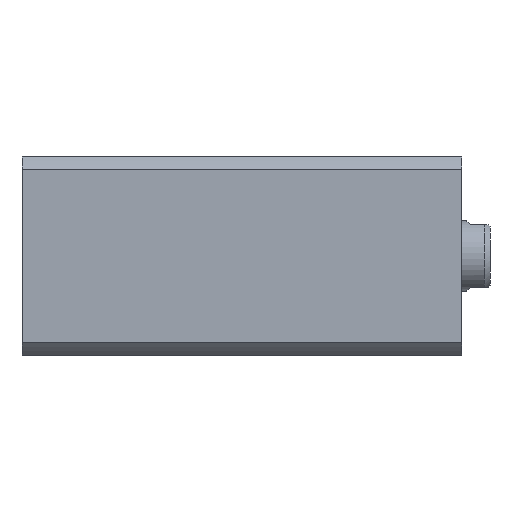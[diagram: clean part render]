
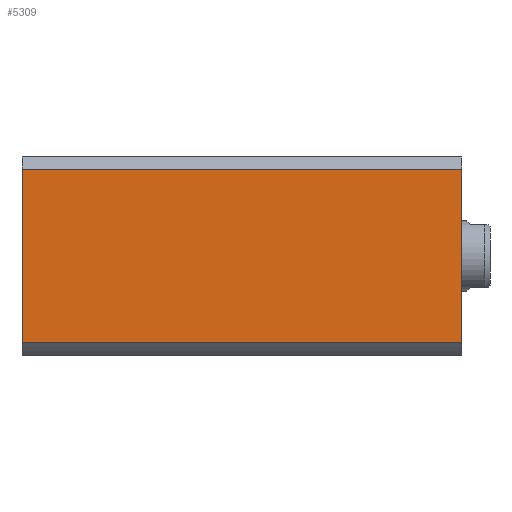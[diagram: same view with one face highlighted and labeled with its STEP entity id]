
A CAD part, left-side view. The second image highlights one B-rep face of the part: STEP entity #5309.
In plain terms, the highlighted planar face has unit normal (-1, 0, 0) as drawn and (0, 1, 0) by its records, which use the part's own axes.
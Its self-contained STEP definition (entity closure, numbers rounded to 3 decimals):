
#442 = ORIENTED_EDGE ( 'NONE', *, *, #6001, .F. ) ;
#1727 = LINE ( 'NONE', #9376, #7702 ) ;
#1847 = EDGE_CURVE ( 'NONE', #9881, #8464, #4179, .T. ) ;
#1952 = CARTESIAN_POINT ( 'NONE',  ( -30.615, 35., 300. ) ) ;
#2010 = ORIENTED_EDGE ( 'NONE', *, *, #8640, .F. ) ;
#2289 = ORIENTED_EDGE ( 'NONE', *, *, #5712, .T. ) ;
#3228 = VECTOR ( 'NONE', #8671, 1000. ) ;
#3310 = CARTESIAN_POINT ( 'NONE',  ( 30.615, 35., 0. ) ) ;
#3386 = CARTESIAN_POINT ( 'NONE',  ( -35., 35., 155. ) ) ;
#3405 = VECTOR ( 'NONE', #3477, 1000. ) ;
#3477 = DIRECTION ( 'NONE',  ( 0., 0., -1. ) ) ;
#3502 = CARTESIAN_POINT ( 'NONE',  ( -30.615, 35., 155. ) ) ;
#3976 = CARTESIAN_POINT ( 'NONE',  ( -35., 35., 155. ) ) ;
#4157 = DIRECTION ( 'NONE',  ( 0., 0., -1. ) ) ;
#4179 = LINE ( 'NONE', #5269, #6306 ) ;
#4414 = CARTESIAN_POINT ( 'NONE',  ( -30.615, 35., 0. ) ) ;
#5267 = FACE_OUTER_BOUND ( 'NONE', #6332, .T. ) ;
#5269 = CARTESIAN_POINT ( 'NONE',  ( 30.615, 35., 300. ) ) ;
#5309 = ADVANCED_FACE ( 'NONE', ( #5267 ), #9587, .F. ) ;
#5712 = EDGE_CURVE ( 'NONE', #9881, #7586, #1727, .T. ) ;
#6001 = EDGE_CURVE ( 'NONE', #8253, #7586, #9381, .T. ) ;
#6306 = VECTOR ( 'NONE', #9695, 1000. ) ;
#6332 = EDGE_LOOP ( 'NONE', ( #442, #2010, #8004, #2289 ) ) ;
#7586 = VERTEX_POINT ( 'NONE', #4414 ) ;
#7645 = LINE ( 'NONE', #3976, #3228 ) ;
#7702 = VECTOR ( 'NONE', #7877, 1000. ) ;
#7877 = DIRECTION ( 'NONE',  ( -1., 0., 0. ) ) ;
#8004 = ORIENTED_EDGE ( 'NONE', *, *, #1847, .F. ) ;
#8253 = VERTEX_POINT ( 'NONE', #3502 ) ;
#8464 = VERTEX_POINT ( 'NONE', #9271 ) ;
#8640 = EDGE_CURVE ( 'NONE', #8464, #8253, #7645, .T. ) ;
#8671 = DIRECTION ( 'NONE',  ( -1., 0., 0. ) ) ;
#8852 = DIRECTION ( 'NONE',  ( 0., -1., 0. ) ) ;
#8969 = AXIS2_PLACEMENT_3D ( 'NONE', #3386, #8852, #4157 ) ;
#9271 = CARTESIAN_POINT ( 'NONE',  ( 30.615, 35., 155. ) ) ;
#9376 = CARTESIAN_POINT ( 'NONE',  ( -35., 35., 0. ) ) ;
#9381 = LINE ( 'NONE', #1952, #3405 ) ;
#9587 = PLANE ( 'NONE',  #8969 ) ;
#9695 = DIRECTION ( 'NONE',  ( 0., 0., 1. ) ) ;
#9881 = VERTEX_POINT ( 'NONE', #3310 ) ;
